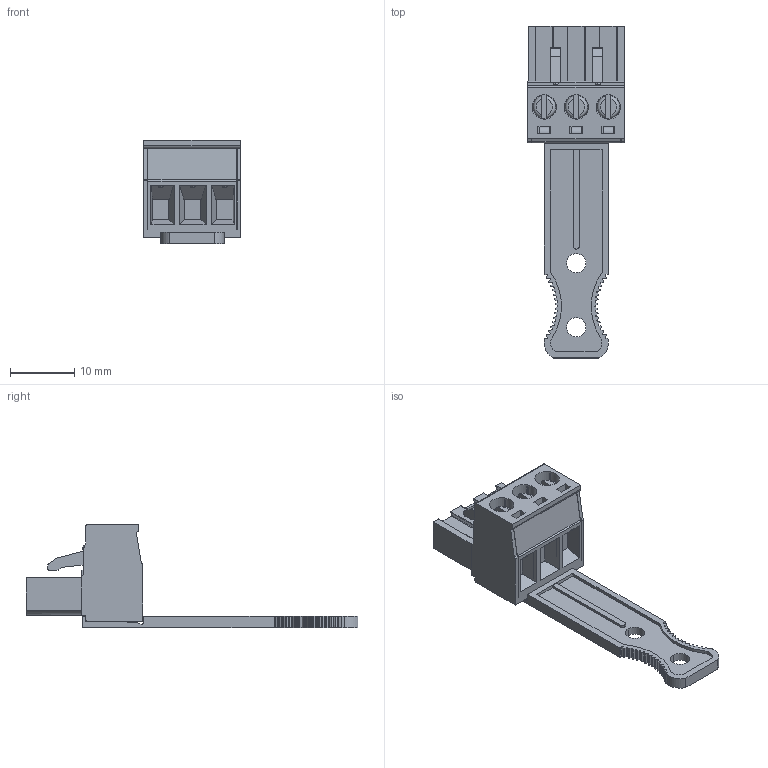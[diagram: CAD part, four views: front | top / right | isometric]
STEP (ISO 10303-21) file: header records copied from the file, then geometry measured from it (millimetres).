
FILE_DESCRIPTION((''),'2;1');
FILE_NAME('33','2019-04-04T',('zhenbing.lai'),(''),'CREO PARAMETRIC BY PTC INC, 2016260','CREO PARAMETRIC BY PTC INC, 2016260','');
FILE_SCHEMA(('CONFIG_CONTROL_DESIGN'));
Length unit declared in the file: millimetre
Products named in the file (1): 33
Bounding box: 15.1 x 51.8 x 16.1 mm (x, y, z)
Volume: 2971 mm3; surface area: 3023.3 mm2
Topology: 1 solids, 7 shells, 561 faces, 1726 edges, 1179 vertices
Faces by surface type: plane 359, cylinder 165, cone 21, sphere 10, torus 6
Entity records: 19723 total; most frequent: CARTESIAN_POINT 3862, ORIENTED_EDGE 3432, DIRECTION 3275, EDGE_CURVE 1716, VERTEX_POINT 1179, VECTOR 1111, LINE 1111, AXIS2_PLACEMENT_3D 1082
